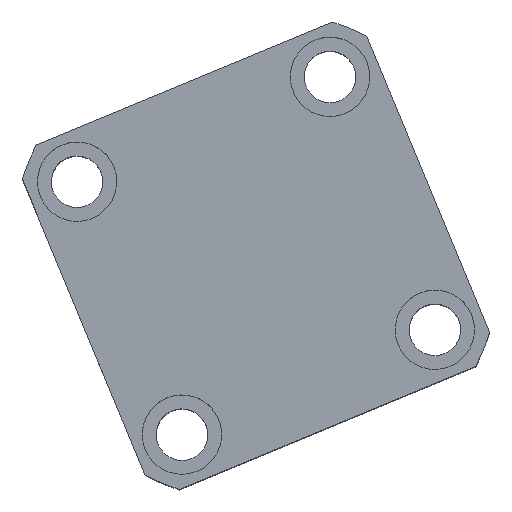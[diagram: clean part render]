
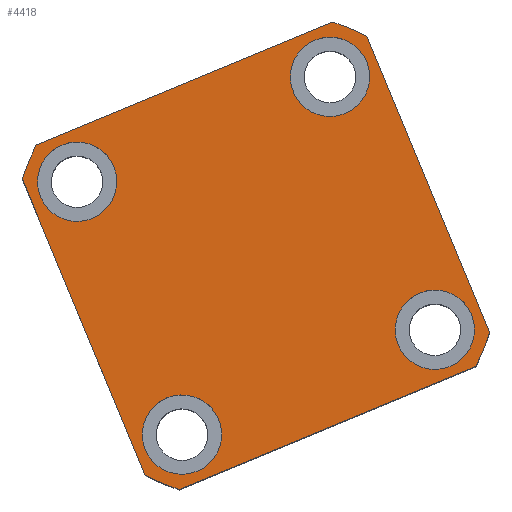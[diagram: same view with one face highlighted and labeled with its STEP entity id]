
A CAD part, top view. The second image highlights one B-rep face of the part: STEP entity #4418.
In plain terms, the highlighted planar face has unit normal (0, 0, 1) as drawn and (0, 0, -1) by its records, which use the part's own axes.
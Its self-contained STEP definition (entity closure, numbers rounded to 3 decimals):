
#232 = VECTOR ( 'NONE', #3159, 1000. ) ;
#235 = VERTEX_POINT ( 'NONE', #1238 ) ;
#397 = ORIENTED_EDGE ( 'NONE', *, *, #13401, .F. ) ;
#443 = CARTESIAN_POINT ( 'NONE',  ( -44.5, -34.5, 0. ) ) ;
#650 = ORIENTED_EDGE ( 'NONE', *, *, #12767, .F. ) ;
#733 = CARTESIAN_POINT ( 'NONE',  ( -34.5, -34.5, 0. ) ) ;
#911 = EDGE_LOOP ( 'NONE', ( #3252, #12115, #12033, #397, #16084, #16482, #7743, #650 ) ) ;
#1002 = DIRECTION ( 'NONE',  ( -1., 0., 0. ) ) ;
#1105 = DIRECTION ( 'NONE',  ( 0., 0., -1. ) ) ;
#1238 = CARTESIAN_POINT ( 'NONE',  ( 40.435, 47., 0. ) ) ;
#1332 = EDGE_CURVE ( 'NONE', #11491, #14255, #12874, .T. ) ;
#1350 = CIRCLE ( 'NONE', #15852, 62. ) ;
#1365 = VERTEX_POINT ( 'NONE', #8028 ) ;
#1384 = VERTEX_POINT ( 'NONE', #13531 ) ;
#1569 = CARTESIAN_POINT ( 'NONE',  ( -40.435, -47., 0. ) ) ;
#1664 = LINE ( 'NONE', #1669, #12568 ) ;
#1669 = CARTESIAN_POINT ( 'NONE',  ( -47., -47., 0. ) ) ;
#1765 = DIRECTION ( 'NONE',  ( 0., 0., 1. ) ) ;
#1774 = VERTEX_POINT ( 'NONE', #4085 ) ;
#2099 = DIRECTION ( 'NONE',  ( -1., 0., 0. ) ) ;
#2280 = CARTESIAN_POINT ( 'NONE',  ( -44.5, 34.5, 0. ) ) ;
#2388 = EDGE_CURVE ( 'NONE', #5314, #4926, #1350, .T. ) ;
#2586 = DIRECTION ( 'NONE',  ( 0., 0., -1. ) ) ;
#2728 = CARTESIAN_POINT ( 'NONE',  ( 47., 47., 0. ) ) ;
#2832 = FACE_OUTER_BOUND ( 'NONE', #911, .T. ) ;
#2978 = CARTESIAN_POINT ( 'NONE',  ( 0., 0., 0. ) ) ;
#3031 = DIRECTION ( 'NONE',  ( 1., 0., 0. ) ) ;
#3077 = AXIS2_PLACEMENT_3D ( 'NONE', #9291, #1105, #10655 ) ;
#3137 = CARTESIAN_POINT ( 'NONE',  ( 44.5, 34.5, 0. ) ) ;
#3159 = DIRECTION ( 'NONE',  ( 0., -1., 0. ) ) ;
#3189 = ORIENTED_EDGE ( 'NONE', *, *, #5047, .F. ) ;
#3252 = ORIENTED_EDGE ( 'NONE', *, *, #9787, .F. ) ;
#3289 = DIRECTION ( 'NONE',  ( 0., 0., 1. ) ) ;
#4032 = EDGE_LOOP ( 'NONE', ( #10762, #13852 ) ) ;
#4085 = CARTESIAN_POINT ( 'NONE',  ( 24.5, 34.5, 0. ) ) ;
#4106 = DIRECTION ( 'NONE',  ( 0., 1., 0. ) ) ;
#4235 = VECTOR ( 'NONE', #7261, 1000. ) ;
#4329 = AXIS2_PLACEMENT_3D ( 'NONE', #9934, #1765, #11311 ) ;
#4364 = DIRECTION ( 'NONE',  ( 1., 0., 0. ) ) ;
#4404 = CARTESIAN_POINT ( 'NONE',  ( 40.435, -47., 0. ) ) ;
#4418 = ADVANCED_FACE ( 'NONE', ( #17407, #10080, #6891, #6485, #2832 ), #11466, .F. ) ;
#4459 = DIRECTION ( 'NONE',  ( 0., 0., -1. ) ) ;
#4486 = CARTESIAN_POINT ( 'NONE',  ( -47., 47., 0. ) ) ;
#4506 = CARTESIAN_POINT ( 'NONE',  ( -34.5, 34.5, 0. ) ) ;
#4536 = ORIENTED_EDGE ( 'NONE', *, *, #16144, .F. ) ;
#4629 = EDGE_CURVE ( 'NONE', #1774, #8583, #6026, .T. ) ;
#4796 = DIRECTION ( 'NONE',  ( 0., 0., -1. ) ) ;
#4926 = VERTEX_POINT ( 'NONE', #1569 ) ;
#5047 = EDGE_CURVE ( 'NONE', #13329, #1384, #7512, .T. ) ;
#5224 = CIRCLE ( 'NONE', #9384, 10. ) ;
#5272 = CARTESIAN_POINT ( 'NONE',  ( 34.5, -34.5, 0. ) ) ;
#5314 = VERTEX_POINT ( 'NONE', #14896 ) ;
#5481 = EDGE_CURVE ( 'NONE', #8583, #1774, #17159, .T. ) ;
#5880 = AXIS2_PLACEMENT_3D ( 'NONE', #16934, #3289, #12850 ) ;
#5885 = DIRECTION ( 'NONE',  ( -1., 0., 0. ) ) ;
#5897 = CARTESIAN_POINT ( 'NONE',  ( -47., 47., 0. ) ) ;
#6026 = CIRCLE ( 'NONE', #8615, 10. ) ;
#6052 = ORIENTED_EDGE ( 'NONE', *, *, #5481, .F. ) ;
#6057 = CARTESIAN_POINT ( 'NONE',  ( 0., 0., 0. ) ) ;
#6485 = FACE_BOUND ( 'NONE', #8459, .T. ) ;
#6630 = DIRECTION ( 'NONE',  ( -1., 0., 0. ) ) ;
#6712 = CIRCLE ( 'NONE', #11910, 10. ) ;
#6801 = VERTEX_POINT ( 'NONE', #443 ) ;
#6886 = DIRECTION ( 'NONE',  ( 0., 0., 1. ) ) ;
#6891 = FACE_BOUND ( 'NONE', #4032, .T. ) ;
#6986 = CIRCLE ( 'NONE', #4329, 62. ) ;
#7261 = DIRECTION ( 'NONE',  ( -1., 0., 0. ) ) ;
#7414 = DIRECTION ( 'NONE',  ( 1., 0., 0. ) ) ;
#7512 = CIRCLE ( 'NONE', #16880, 10. ) ;
#7743 = ORIENTED_EDGE ( 'NONE', *, *, #14467, .F. ) ;
#7773 = EDGE_CURVE ( 'NONE', #10552, #5314, #11115, .T. ) ;
#7787 = AXIS2_PLACEMENT_3D ( 'NONE', #15095, #6886, #16468 ) ;
#7942 = AXIS2_PLACEMENT_3D ( 'NONE', #10779, #2586, #12148 ) ;
#8028 = CARTESIAN_POINT ( 'NONE',  ( 47., 40.435, 0. ) ) ;
#8078 = EDGE_LOOP ( 'NONE', ( #3189, #8570 ) ) ;
#8097 = CIRCLE ( 'NONE', #3077, 10. ) ;
#8357 = CARTESIAN_POINT ( 'NONE',  ( 24.5, -34.5, 0. ) ) ;
#8394 = VERTEX_POINT ( 'NONE', #11154 ) ;
#8402 = VERTEX_POINT ( 'NONE', #4404 ) ;
#8459 = EDGE_LOOP ( 'NONE', ( #8927, #6052 ) ) ;
#8494 = EDGE_LOOP ( 'NONE', ( #14594, #4536 ) ) ;
#8570 = ORIENTED_EDGE ( 'NONE', *, *, #12030, .F. ) ;
#8583 = VERTEX_POINT ( 'NONE', #3137 ) ;
#8615 = AXIS2_PLACEMENT_3D ( 'NONE', #17378, #9180, #1002 ) ;
#8927 = ORIENTED_EDGE ( 'NONE', *, *, #4629, .F. ) ;
#9141 = CARTESIAN_POINT ( 'NONE',  ( -40.435, 47., 0. ) ) ;
#9180 = DIRECTION ( 'NONE',  ( 0., 0., -1. ) ) ;
#9291 = CARTESIAN_POINT ( 'NONE',  ( 34.5, -34.5, 0. ) ) ;
#9384 = AXIS2_PLACEMENT_3D ( 'NONE', #4506, #14081, #5885 ) ;
#9595 = AXIS2_PLACEMENT_3D ( 'NONE', #12968, #4796, #14360 ) ;
#9787 = EDGE_CURVE ( 'NONE', #1365, #235, #12178, .T. ) ;
#9934 = CARTESIAN_POINT ( 'NONE',  ( 0., 0., 0. ) ) ;
#10080 = FACE_BOUND ( 'NONE', #8494, .T. ) ;
#10153 = EDGE_CURVE ( 'NONE', #6801, #16142, #12599, .T. ) ;
#10277 = DIRECTION ( 'NONE',  ( 0., 0., -1. ) ) ;
#10552 = VERTEX_POINT ( 'NONE', #10666 ) ;
#10655 = DIRECTION ( 'NONE',  ( -1., 0., 0. ) ) ;
#10666 = CARTESIAN_POINT ( 'NONE',  ( -47., 40.435, 0. ) ) ;
#10762 = ORIENTED_EDGE ( 'NONE', *, *, #1332, .F. ) ;
#10779 = CARTESIAN_POINT ( 'NONE',  ( -34.5, 34.5, 0. ) ) ;
#11033 = AXIS2_PLACEMENT_3D ( 'NONE', #12644, #4459, #14028 ) ;
#11115 = LINE ( 'NONE', #4486, #232 ) ;
#11154 = CARTESIAN_POINT ( 'NONE',  ( 47., -40.435, 0. ) ) ;
#11311 = DIRECTION ( 'NONE',  ( 1., 0., 0. ) ) ;
#11466 = PLANE ( 'NONE',  #5880 ) ;
#11484 = LINE ( 'NONE', #5897, #4235 ) ;
#11491 = VERTEX_POINT ( 'NONE', #2280 ) ;
#11910 = AXIS2_PLACEMENT_3D ( 'NONE', #733, #10277, #2099 ) ;
#12030 = EDGE_CURVE ( 'NONE', #1384, #13329, #8097, .T. ) ;
#12033 = ORIENTED_EDGE ( 'NONE', *, *, #14973, .F. ) ;
#12115 = ORIENTED_EDGE ( 'NONE', *, *, #17297, .F. ) ;
#12148 = DIRECTION ( 'NONE',  ( -1., 0., 0. ) ) ;
#12178 = CIRCLE ( 'NONE', #7787, 62. ) ;
#12543 = DIRECTION ( 'NONE',  ( 0., 0., 1. ) ) ;
#12568 = VECTOR ( 'NONE', #3031, 1000. ) ;
#12599 = CIRCLE ( 'NONE', #9595, 10. ) ;
#12644 = CARTESIAN_POINT ( 'NONE',  ( 34.5, 34.5, 0. ) ) ;
#12767 = EDGE_CURVE ( 'NONE', #235, #12981, #11484, .T. ) ;
#12850 = DIRECTION ( 'NONE',  ( 1., 0., 0. ) ) ;
#12874 = CIRCLE ( 'NONE', #7942, 10. ) ;
#12878 = VECTOR ( 'NONE', #4106, 1000. ) ;
#12968 = CARTESIAN_POINT ( 'NONE',  ( -34.5, -34.5, 0. ) ) ;
#12981 = VERTEX_POINT ( 'NONE', #9141 ) ;
#13329 = VERTEX_POINT ( 'NONE', #8357 ) ;
#13350 = LINE ( 'NONE', #2728, #12878 ) ;
#13401 = EDGE_CURVE ( 'NONE', #4926, #8402, #1664, .T. ) ;
#13531 = CARTESIAN_POINT ( 'NONE',  ( 44.5, -34.5, 0. ) ) ;
#13852 = ORIENTED_EDGE ( 'NONE', *, *, #17625, .F. ) ;
#14028 = DIRECTION ( 'NONE',  ( -1., 0., 0. ) ) ;
#14081 = DIRECTION ( 'NONE',  ( 0., 0., -1. ) ) ;
#14255 = VERTEX_POINT ( 'NONE', #17577 ) ;
#14357 = CARTESIAN_POINT ( 'NONE',  ( -24.5, -34.5, 0. ) ) ;
#14360 = DIRECTION ( 'NONE',  ( -1., 0., 0. ) ) ;
#14467 = EDGE_CURVE ( 'NONE', #12981, #10552, #6986, .T. ) ;
#14594 = ORIENTED_EDGE ( 'NONE', *, *, #10153, .F. ) ;
#14844 = DIRECTION ( 'NONE',  ( 0., 0., -1. ) ) ;
#14896 = CARTESIAN_POINT ( 'NONE',  ( -47., -40.435, 0. ) ) ;
#14973 = EDGE_CURVE ( 'NONE', #8402, #8394, #15343, .T. ) ;
#15095 = CARTESIAN_POINT ( 'NONE',  ( 0., 0., 0. ) ) ;
#15343 = CIRCLE ( 'NONE', #16255, 62. ) ;
#15616 = DIRECTION ( 'NONE',  ( 0., 0., 1. ) ) ;
#15852 = AXIS2_PLACEMENT_3D ( 'NONE', #2978, #12543, #4364 ) ;
#16084 = ORIENTED_EDGE ( 'NONE', *, *, #2388, .F. ) ;
#16142 = VERTEX_POINT ( 'NONE', #14357 ) ;
#16144 = EDGE_CURVE ( 'NONE', #16142, #6801, #6712, .T. ) ;
#16255 = AXIS2_PLACEMENT_3D ( 'NONE', #6057, #15616, #7414 ) ;
#16468 = DIRECTION ( 'NONE',  ( 1., 0., 0. ) ) ;
#16482 = ORIENTED_EDGE ( 'NONE', *, *, #7773, .F. ) ;
#16880 = AXIS2_PLACEMENT_3D ( 'NONE', #5272, #14844, #6630 ) ;
#16934 = CARTESIAN_POINT ( 'NONE',  ( 0., 0., 0. ) ) ;
#17159 = CIRCLE ( 'NONE', #11033, 10. ) ;
#17297 = EDGE_CURVE ( 'NONE', #8394, #1365, #13350, .T. ) ;
#17378 = CARTESIAN_POINT ( 'NONE',  ( 34.5, 34.5, 0. ) ) ;
#17407 = FACE_BOUND ( 'NONE', #8078, .T. ) ;
#17577 = CARTESIAN_POINT ( 'NONE',  ( -24.5, 34.5, 0. ) ) ;
#17625 = EDGE_CURVE ( 'NONE', #14255, #11491, #5224, .T. ) ;
